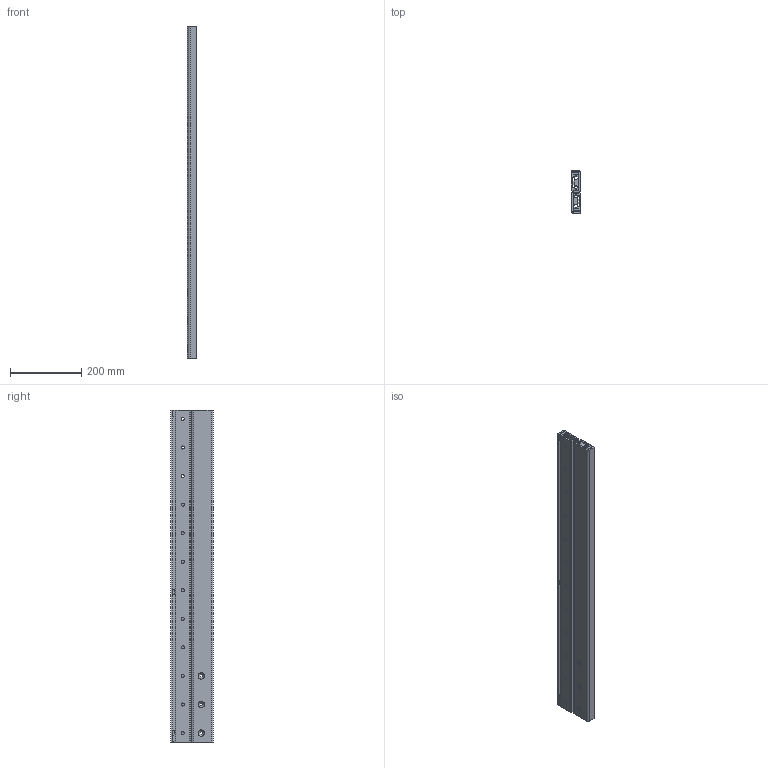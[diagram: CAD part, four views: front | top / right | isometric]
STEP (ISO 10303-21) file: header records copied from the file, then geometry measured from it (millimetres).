
FILE_DESCRIPTION(('STEP AP214'),'1');
FILE_NAME('rail_dss43-930_00.stp','2017-04-17T03:59:28',('TraceParts'),('TraceParts S.A.'),'Spatial InterOp 3D',' ',' ');
FILE_SCHEMA(('automotive_design'));
Length unit declared in the file: millimetre
Products named in the file (3): rail_dss43-930_00_1; rail_dss43-930_00_2; rail_dss43-930_00_3
Bounding box: 28 x 120 x 930 mm (x, y, z)
Volume: 1651883.4 mm3; surface area: 666340.3 mm2
Topology: 3 solids, 3 shells, 298 faces, 798 edges, 516 vertices
Faces by surface type: plane 138, cylinder 112, cone 48
Entity records: 9491 total; most frequent: DIRECTION 1688, CARTESIAN_POINT 1615, ORIENTED_EDGE 1596, EDGE_CURVE 798, AXIS2_PLACEMENT_3D 589, VERTEX_POINT 516, LINE 510, VECTOR 510
